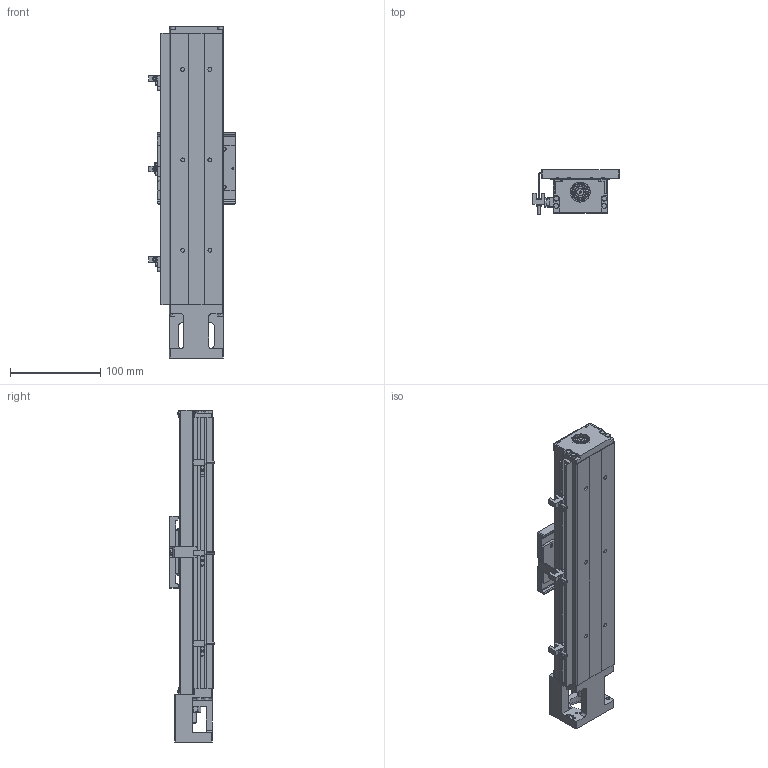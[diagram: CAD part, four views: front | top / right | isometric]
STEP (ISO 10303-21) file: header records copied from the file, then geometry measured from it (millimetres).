
FILE_DESCRIPTION (( 'STEP AP203' ), '1' );
FILE_NAME ('GKAC3360-200-12N-P10-CPXXX-網站用圖.STEP', '2023-04-14T07:36:23', ( '' ), ( '' ), 'SwSTEP 2.0', 'SolidWorks 2019', '' );
FILE_SCHEMA (( 'CONFIG_CONTROL_DESIGN' ));
Length unit declared in the file: millimetre
Products named in the file (3): Group3^GKAC3360-200-12N-P10-CPXXX_defeature-網站用圖_GMT; GKAC3360-200-12N-P10-CPXXX-網站用圖; Group4^GKAC3360-200-12N-P10-CPXXX_defeature-網站用圖_GMT
Assembly tree (2 placements, depth 2):
  GKAC3360-200-12N-P10-CPXXX-網站用圖
    Group3^GKAC3360-200-12N-P10-CPXXX_defeature-網站用圖_GMT
    Group4^GKAC3360-200-12N-P10-CPXXX_defeature-網站用圖_GMT
Bounding box: 95.4 x 49.1 x 367 mm (x, y, z)
Volume: 511347.7 mm3; surface area: 224637.7 mm2
Topology: 29 solids, 44 shells, 2962 faces, 7730 edges, 4835 vertices
Faces by surface type: plane 1286, cylinder 854, cone 371, torus 254, bspline 137, sphere 60
Entity records: 101800 total; most frequent: CARTESIAN_POINT 29163, DIRECTION 15256, ORIENTED_EDGE 15252, EDGE_CURVE 7626, AXIS2_PLACEMENT_3D 5697, VERTEX_POINT 4819, VECTOR 3862, LINE 3862
